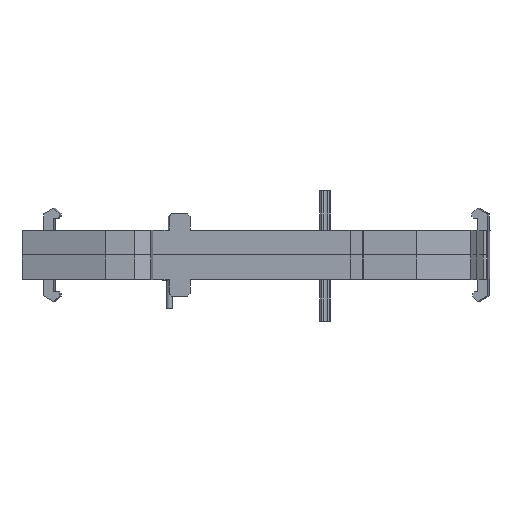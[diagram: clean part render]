
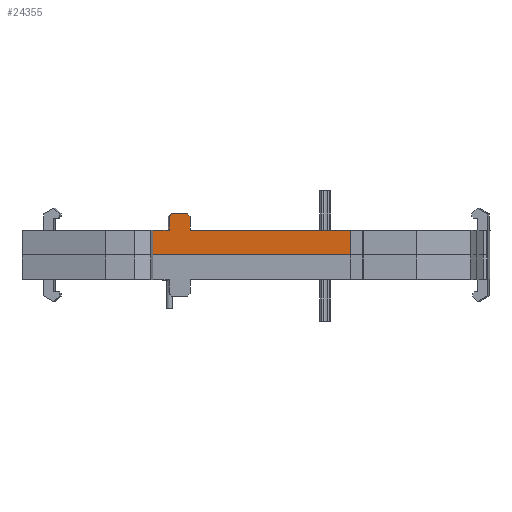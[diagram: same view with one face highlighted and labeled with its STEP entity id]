
A CAD part, front view. The second image highlights one B-rep face of the part: STEP entity #24355.
In plain terms, the highlighted planar face has unit normal (-0.088, -0.996, 0) as drawn and (0, -1, 0) by its records, which use the part's own axes.
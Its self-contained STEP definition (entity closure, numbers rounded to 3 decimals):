
#19132=DIRECTION('',(-1.,0.,0.));
#19133=VECTOR('',#19132,29.34);
#19134=CARTESIAN_POINT('',(191.264,-17.34,9.));
#19135=LINE('',#19134,#19133);
#19148=DIRECTION('',(-1.,0.,0.));
#19149=VECTOR('',#19148,3.);
#19150=CARTESIAN_POINT('',(158.064,-17.34,9.));
#19151=LINE('',#19150,#19149);
#20606=DIRECTION('',(0.,0.,1.));
#20607=VECTOR('',#20606,4.5);
#20608=CARTESIAN_POINT('',(191.264,-17.34,4.5));
#20609=LINE('',#20608,#20607);
#20618=DIRECTION('',(-1.,0.,0.));
#20619=VECTOR('',#20618,36.2);
#20620=CARTESIAN_POINT('',(191.264,-17.34,4.5));
#20621=LINE('',#20620,#20619);
#20622=DIRECTION('',(0.,0.,1.));
#20623=VECTOR('',#20622,2.5);
#20624=CARTESIAN_POINT('',(158.064,-17.34,9.));
#20625=LINE('',#20624,#20623);
#20626=DIRECTION('',(1.,0.,0.));
#20627=VECTOR('',#20626,2.844);
#20628=CARTESIAN_POINT('',(158.572,-17.34,
12.));
#20629=LINE('',#20628,#20627);
#20630=DIRECTION('',(0.,0.,-1.));
#20631=VECTOR('',#20630,4.5);
#20632=CARTESIAN_POINT('',(155.064,-17.34,9.));
#20633=LINE('',#20632,#20631);
#20702=DIRECTION('',(-0.713,0.,
-0.702));
#20703=VECTOR('',#20702,0.713);
#20704=CARTESIAN_POINT('',(158.572,-17.34,
12.));
#20705=LINE('',#20704,#20703);
#20718=DIRECTION('',(0.,0.,1.));
#20719=VECTOR('',#20718,2.5);
#20720=CARTESIAN_POINT('',(161.924,-17.34,9.));
#20721=LINE('',#20720,#20719);
#20730=DIRECTION('',(-0.713,0.,0.702));
#20731=VECTOR('',#20730,0.713);
#20732=CARTESIAN_POINT('',(161.924,-17.34,
11.5));
#20733=LINE('',#20732,#20731);
#21584=CARTESIAN_POINT('',(161.924,-17.34,9.));
#21586=VERTEX_POINT('',#21584);
#21590=CARTESIAN_POINT('',(158.064,-17.34,9.));
#21591=VERTEX_POINT('',#21590);
#21592=CARTESIAN_POINT('',(155.064,-17.34,9.));
#21593=VERTEX_POINT('',#21592);
#21686=CARTESIAN_POINT('',(191.264,-17.34,9.));
#21687=VERTEX_POINT('',#21686);
#21877=CARTESIAN_POINT('',(155.064,-17.34,4.5));
#21878=VERTEX_POINT('',#21877);
#21879=CARTESIAN_POINT('',(191.264,-17.34,4.5));
#21880=VERTEX_POINT('',#21879);
#22237=CARTESIAN_POINT('',(158.064,-17.34,
11.5));
#22238=VERTEX_POINT('',#22237);
#22239=CARTESIAN_POINT('',(158.572,-17.34,
12.));
#22240=VERTEX_POINT('',#22239);
#22241=CARTESIAN_POINT('',(161.416,-17.34,
12.));
#22242=VERTEX_POINT('',#22241);
#22243=CARTESIAN_POINT('',(161.924,-17.34,
11.5));
#22244=VERTEX_POINT('',#22243);
#24332=CARTESIAN_POINT('',(191.384,-17.34,9.));
#24333=DIRECTION('',(0.,1.,0.));
#24334=DIRECTION('',(-1.,0.,0.));
#24335=AXIS2_PLACEMENT_3D('',#24332,#24333,#24334);
#24336=PLANE('',#24335);
#24337=ORIENTED_EDGE('',*,*,#24324,.F.);
#24338=ORIENTED_EDGE('',*,*,#23093,.T.);
#24340=ORIENTED_EDGE('',*,*,#24339,.F.);
#24341=ORIENTED_EDGE('',*,*,#22478,.F.);
#24343=ORIENTED_EDGE('',*,*,#24342,.T.);
#24345=ORIENTED_EDGE('',*,*,#24344,.F.);
#24347=ORIENTED_EDGE('',*,*,#24346,.T.);
#24349=ORIENTED_EDGE('',*,*,#24348,.F.);
#24351=ORIENTED_EDGE('',*,*,#24350,.F.);
#24352=ORIENTED_EDGE('',*,*,#22470,.F.);
#24353=EDGE_LOOP('',(#24337,#24338,#24340,#24341,#24343,#24345,#24347,#24349,
#24351,#24352));
#24354=FACE_OUTER_BOUND('',#24353,.F.);
#22470=EDGE_CURVE('',#21687,#21586,#19135,.T.);
#22478=EDGE_CURVE('',#21591,#21593,#19151,.T.);
#23093=EDGE_CURVE('',#21880,#21878,#20621,.T.);
#24324=EDGE_CURVE('',#21880,#21687,#20609,.T.);
#24339=EDGE_CURVE('',#21593,#21878,#20633,.T.);
#24342=EDGE_CURVE('',#21591,#22238,#20625,.T.);
#24344=EDGE_CURVE('',#22240,#22238,#20705,.T.);
#24346=EDGE_CURVE('',#22240,#22242,#20629,.T.);
#24348=EDGE_CURVE('',#22244,#22242,#20733,.T.);
#24350=EDGE_CURVE('',#21586,#22244,#20721,.T.);
#24355=ADVANCED_FACE('',(#24354),#24336,.F.);
